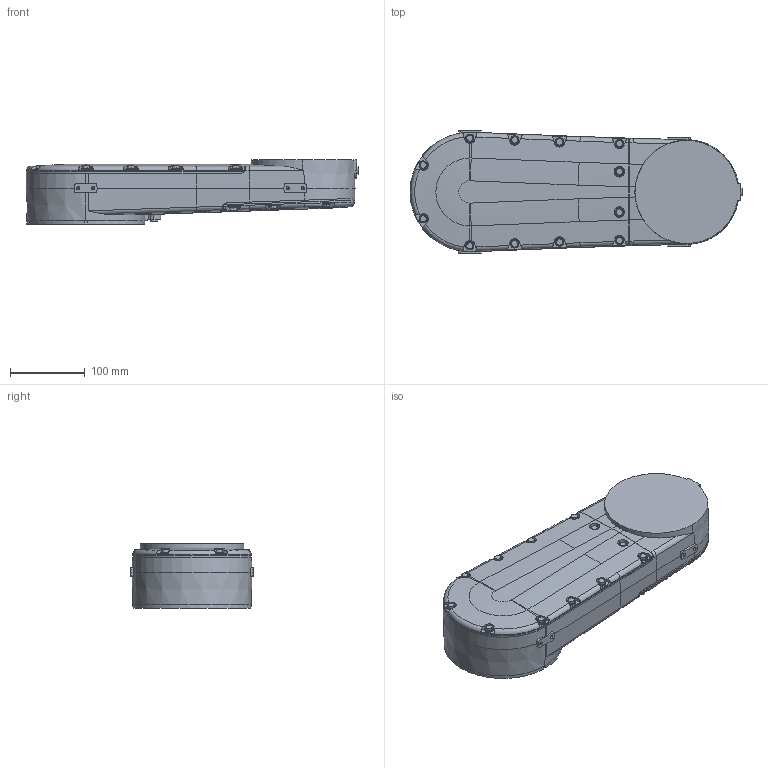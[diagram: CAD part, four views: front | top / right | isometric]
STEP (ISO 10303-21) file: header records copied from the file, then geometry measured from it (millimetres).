
FILE_DESCRIPTION (( 'STEP AP214' ), '1' );
FILE_NAME ('IRB920_6kg-550-145-IP54-BTM_OmniCore_rev00_LINK1.STEP', '2022-06-20T05:18:04', ( '' ), ( '' ), 'SwSTEP 2.0', 'SolidWorks 2020', '' );
FILE_SCHEMA (( 'AUTOMOTIVE_DESIGN' ));
Length unit declared in the file: millimetre
Products named in the file (1): IRB920_6kg-550-145-IP54-BTM_OmniCore_rev00_LINK1
Bounding box: 444 x 164 x 86 mm (x, y, z)
Volume: 4145225 mm3; surface area: 198715.9 mm2
Topology: 1 solids, 1 shells, 437 faces, 1103 edges, 706 vertices
Faces by surface type: plane 168, cylinder 145, cone 74, bspline 44, torus 6
Entity records: 18420 total; most frequent: CARTESIAN_POINT 8807, ORIENTED_EDGE 2174, DIRECTION 1718, EDGE_CURVE 1087, VERTEX_POINT 706, AXIS2_PLACEMENT_3D 646, EDGE_LOOP 491, ADVANCED_FACE 437
